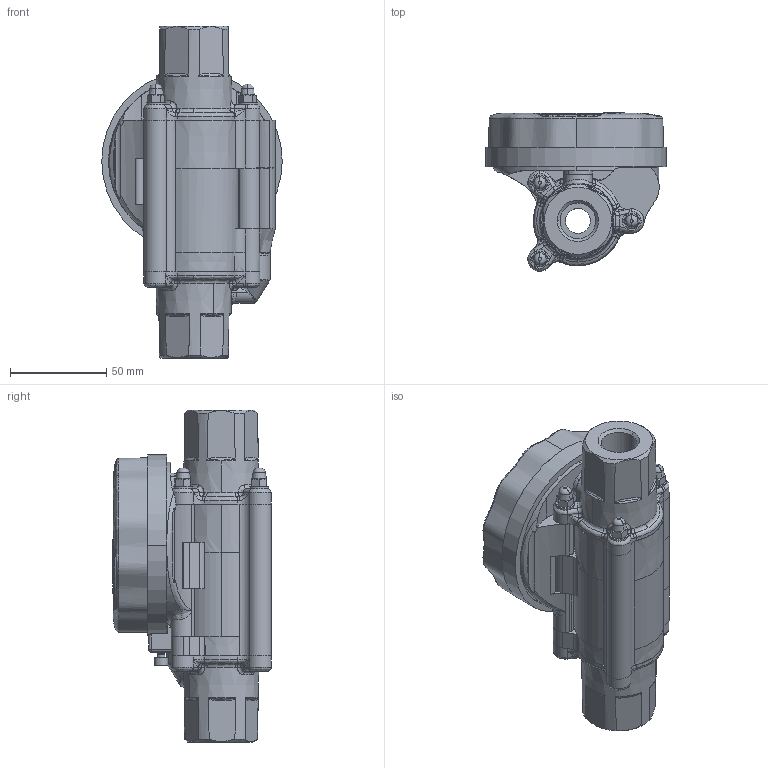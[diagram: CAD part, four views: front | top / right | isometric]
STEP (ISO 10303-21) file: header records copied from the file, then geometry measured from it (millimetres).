
FILE_DESCRIPTION (( 'STEP AP214' ), '1' );
FILE_NAME ('PAP-S015-FFG.STEP', '2020-02-04T16:02:50', ( 'Windows User' ), ( 'Watts Water' ), 'SwSTEP 2.0', 'SolidWorks 2017', '' );
FILE_SCHEMA (( 'AUTOMOTIVE_DESIGN' ));
Length unit declared in the file: millimetre
Products named in the file (1): PAP-S015-FFG
Bounding box: 94 x 82.55 x 172.9 mm (x, y, z)
Surface area: 79390.4 mm2 (no closed solid volume)
Topology: 0 solids, 29 shells, 742 faces, 2589 edges, 1776 vertices
Faces by surface type: bspline 250, plane 233, cylinder 165, cone 71, torus 21, sphere 2
Entity records: 68543 total; most frequent: CARTESIAN_POINT 40876, ORIENTED_EDGE 4203, DIRECTION 3422, EDGE_CURVE 2547, VERTEX_POINT 1776, AXIS2_PLACEMENT_3D 1274, VECTOR 874, LINE 874
